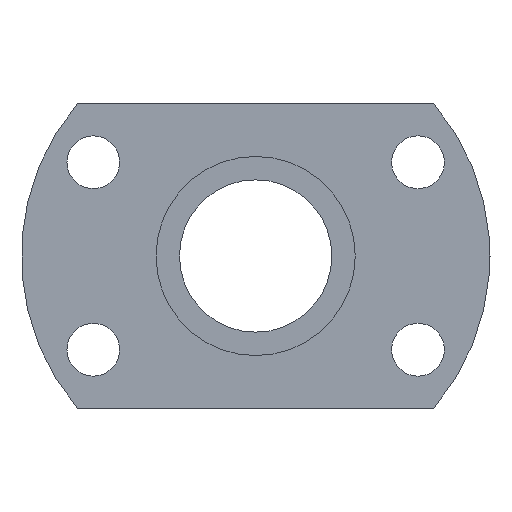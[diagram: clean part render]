
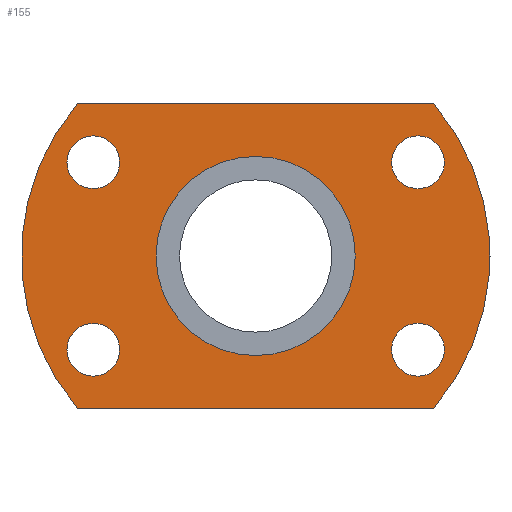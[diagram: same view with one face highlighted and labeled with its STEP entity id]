
A CAD part, left-side view. The second image highlights one B-rep face of the part: STEP entity #155.
In plain terms, the highlighted planar face has unit normal (-1, 0, 0).
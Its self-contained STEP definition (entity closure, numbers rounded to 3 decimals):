
#9 = CARTESIAN_POINT ( 'NONE',  ( 0.37, 13.856, 8. ) ) ;
#18 = AXIS2_PLACEMENT_3D ( 'NONE', #659, #80, #758 ) ;
#20 = CIRCLE ( 'NONE', #1184, 2.25 ) ;
#33 = CIRCLE ( 'NONE', #423, 2.25 ) ;
#37 = FACE_BOUND ( 'NONE', #420, .T. ) ;
#45 = CARTESIAN_POINT ( 'NONE',  ( 0.37, 20., 13. ) ) ;
#50 = ORIENTED_EDGE ( 'NONE', *, *, #231, .T. ) ;
#56 = DIRECTION ( 'NONE',  ( 0., 0., 1. ) ) ;
#58 = ORIENTED_EDGE ( 'NONE', *, *, #1233, .F. ) ;
#69 = DIRECTION ( 'NONE',  ( -1., 0., 0. ) ) ;
#70 = VERTEX_POINT ( 'NONE', #780 ) ;
#71 = ORIENTED_EDGE ( 'NONE', *, *, #379, .F. ) ;
#74 = EDGE_CURVE ( 'NONE', #219, #1029, #475, .T. ) ;
#79 = FACE_BOUND ( 'NONE', #1103, .T. ) ;
#80 = DIRECTION ( 'NONE',  ( -1., 0., 0. ) ) ;
#91 = ORIENTED_EDGE ( 'NONE', *, *, #718, .F. ) ;
#104 = VERTEX_POINT ( 'NONE', #825 ) ;
#107 = AXIS2_PLACEMENT_3D ( 'NONE', #9, #688, #111 ) ;
#108 = CARTESIAN_POINT ( 'NONE',  ( 0.37, 13.856, -8. ) ) ;
#111 = DIRECTION ( 'NONE',  ( 0., 0., 1. ) ) ;
#120 = CIRCLE ( 'NONE', #18, 2.25 ) ;
#135 = FACE_BOUND ( 'NONE', #313, .T. ) ;
#149 = CARTESIAN_POINT ( 'NONE',  ( 0.37, 13.856, -10.25 ) ) ;
#155 = ADVANCED_FACE ( 'NONE', ( #669, #135, #79, #37, #335, #511 ), #280, .F. ) ;
#158 = EDGE_CURVE ( 'NONE', #480, #104, #1221, .T. ) ;
#204 = CIRCLE ( 'NONE', #107, 2.25 ) ;
#211 = ORIENTED_EDGE ( 'NONE', *, *, #370, .F. ) ;
#217 = VERTEX_POINT ( 'NONE', #966 ) ;
#219 = VERTEX_POINT ( 'NONE', #1120 ) ;
#220 = CARTESIAN_POINT ( 'NONE',  ( 0.37, 0., 0. ) ) ;
#231 = EDGE_CURVE ( 'NONE', #949, #1135, #1187, .T. ) ;
#236 = VERTEX_POINT ( 'NONE', #265 ) ;
#248 = CARTESIAN_POINT ( 'NONE',  ( 0.37, -13.856, 10.25 ) ) ;
#265 = CARTESIAN_POINT ( 'NONE',  ( 0.37, -13.856, 5.75 ) ) ;
#280 = PLANE ( 'NONE',  #883 ) ;
#284 = DIRECTION ( 'NONE',  ( -1., 0., 0. ) ) ;
#290 = VERTEX_POINT ( 'NONE', #1024 ) ;
#313 = EDGE_LOOP ( 'NONE', ( #1105, #539 ) ) ;
#318 = DIRECTION ( 'NONE',  ( 0., 0., 1. ) ) ;
#325 = DIRECTION ( 'NONE',  ( 0., 0., 1. ) ) ;
#332 = AXIS2_PLACEMENT_3D ( 'NONE', #337, #1008, #432 ) ;
#335 = FACE_BOUND ( 'NONE', #634, .T. ) ;
#337 = CARTESIAN_POINT ( 'NONE',  ( 0.37, 0., 0. ) ) ;
#338 = EDGE_CURVE ( 'NONE', #712, #70, #723, .T. ) ;
#343 = ORIENTED_EDGE ( 'NONE', *, *, #1091, .F. ) ;
#370 = EDGE_CURVE ( 'NONE', #984, #290, #1110, .T. ) ;
#376 = DIRECTION ( 'NONE',  ( 0., 0., 1. ) ) ;
#378 = CARTESIAN_POINT ( 'NONE',  ( 0.37, 20., 0. ) ) ;
#379 = EDGE_CURVE ( 'NONE', #236, #413, #871, .T. ) ;
#405 = VECTOR ( 'NONE', #1046, 1000. ) ;
#406 = CARTESIAN_POINT ( 'NONE',  ( 0.37, 13.856, 8. ) ) ;
#413 = VERTEX_POINT ( 'NONE', #248 ) ;
#420 = EDGE_LOOP ( 'NONE', ( #343, #493 ) ) ;
#423 = AXIS2_PLACEMENT_3D ( 'NONE', #1210, #638, #56 ) ;
#426 = EDGE_LOOP ( 'NONE', ( #663, #58 ) ) ;
#432 = DIRECTION ( 'NONE',  ( 0., 0., 1. ) ) ;
#434 = AXIS2_PLACEMENT_3D ( 'NONE', #849, #69, #833 ) ;
#444 = LINE ( 'NONE', #45, #600 ) ;
#475 = CIRCLE ( 'NONE', #968, 2.25 ) ;
#480 = VERTEX_POINT ( 'NONE', #1030 ) ;
#493 = ORIENTED_EDGE ( 'NONE', *, *, #338, .F. ) ;
#506 = DIRECTION ( 'NONE',  ( 0., 0., 1. ) ) ;
#511 = FACE_OUTER_BOUND ( 'NONE', #577, .T. ) ;
#533 = CARTESIAN_POINT ( 'NONE',  ( 0.37, 0., -8.5 ) ) ;
#539 = ORIENTED_EDGE ( 'NONE', *, *, #1167, .F. ) ;
#558 = CARTESIAN_POINT ( 'NONE',  ( 0.37, 0., 0. ) ) ;
#572 = DIRECTION ( 'NONE',  ( 0., 0., -1. ) ) ;
#577 = EDGE_LOOP ( 'NONE', ( #1217, #703, #50, #882 ) ) ;
#600 = VECTOR ( 'NONE', #917, 1000. ) ;
#602 = CARTESIAN_POINT ( 'NONE',  ( 0.37, 15.199, -13. ) ) ;
#607 = VERTEX_POINT ( 'NONE', #786 ) ;
#634 = EDGE_LOOP ( 'NONE', ( #1013, #211 ) ) ;
#638 = DIRECTION ( 'NONE',  ( -1., 0., 0. ) ) ;
#652 = DIRECTION ( 'NONE',  ( 0., 0., 1. ) ) ;
#659 = CARTESIAN_POINT ( 'NONE',  ( 0.37, -13.856, -8. ) ) ;
#663 = ORIENTED_EDGE ( 'NONE', *, *, #74, .F. ) ;
#669 = FACE_BOUND ( 'NONE', #426, .T. ) ;
#688 = DIRECTION ( 'NONE',  ( -1., 0., 0. ) ) ;
#689 = LINE ( 'NONE', #860, #405 ) ;
#690 = AXIS2_PLACEMENT_3D ( 'NONE', #220, #902, #318 ) ;
#693 = EDGE_CURVE ( 'NONE', #217, #607, #710, .T. ) ;
#701 = AXIS2_PLACEMENT_3D ( 'NONE', #1082, #748, #729 ) ;
#703 = ORIENTED_EDGE ( 'NONE', *, *, #1034, .T. ) ;
#710 = CIRCLE ( 'NONE', #434, 20. ) ;
#712 = VERTEX_POINT ( 'NONE', #988 ) ;
#718 = EDGE_CURVE ( 'NONE', #413, #236, #33, .T. ) ;
#723 = CIRCLE ( 'NONE', #751, 2.25 ) ;
#729 = DIRECTION ( 'NONE',  ( 0., 0., 1. ) ) ;
#748 = DIRECTION ( 'NONE',  ( -1., 0., 0. ) ) ;
#751 = AXIS2_PLACEMENT_3D ( 'NONE', #406, #1075, #506 ) ;
#758 = DIRECTION ( 'NONE',  ( 0., 0., 1. ) ) ;
#780 = CARTESIAN_POINT ( 'NONE',  ( 0.37, 13.856, 10.25 ) ) ;
#785 = DIRECTION ( 'NONE',  ( -1., 0., 0. ) ) ;
#786 = CARTESIAN_POINT ( 'NONE',  ( 0.37, -15.199, 13. ) ) ;
#805 = CARTESIAN_POINT ( 'NONE',  ( 0.37, 13.856, -8. ) ) ;
#821 = CARTESIAN_POINT ( 'NONE',  ( 0.37, 15.199, 13. ) ) ;
#825 = CARTESIAN_POINT ( 'NONE',  ( 0.37, -13.856, -10.25 ) ) ;
#833 = DIRECTION ( 'NONE',  ( 0., 0., 1. ) ) ;
#849 = CARTESIAN_POINT ( 'NONE',  ( 0.37, 0., 0. ) ) ;
#853 = CIRCLE ( 'NONE', #332, 8.5 ) ;
#860 = CARTESIAN_POINT ( 'NONE',  ( 0.37, 20., -13. ) ) ;
#863 = AXIS2_PLACEMENT_3D ( 'NONE', #558, #1227, #652 ) ;
#865 = CARTESIAN_POINT ( 'NONE',  ( 0.37, -13.856, -8. ) ) ;
#871 = CIRCLE ( 'NONE', #701, 2.25 ) ;
#882 = ORIENTED_EDGE ( 'NONE', *, *, #1183, .T. ) ;
#883 = AXIS2_PLACEMENT_3D ( 'NONE', #378, #1136, #572 ) ;
#902 = DIRECTION ( 'NONE',  ( -1., 0., 0. ) ) ;
#905 = EDGE_CURVE ( 'NONE', #290, #984, #853, .T. ) ;
#916 = AXIS2_PLACEMENT_3D ( 'NONE', #865, #284, #961 ) ;
#917 = DIRECTION ( 'NONE',  ( 0., 1., 0. ) ) ;
#949 = VERTEX_POINT ( 'NONE', #821 ) ;
#951 = DIRECTION ( 'NONE',  ( -1., 0., 0. ) ) ;
#961 = DIRECTION ( 'NONE',  ( 0., 0., 1. ) ) ;
#966 = CARTESIAN_POINT ( 'NONE',  ( 0.37, -15.199, -13. ) ) ;
#968 = AXIS2_PLACEMENT_3D ( 'NONE', #805, #951, #376 ) ;
#984 = VERTEX_POINT ( 'NONE', #533 ) ;
#988 = CARTESIAN_POINT ( 'NONE',  ( 0.37, 13.856, 5.75 ) ) ;
#1008 = DIRECTION ( 'NONE',  ( -1., 0., 0. ) ) ;
#1013 = ORIENTED_EDGE ( 'NONE', *, *, #905, .F. ) ;
#1024 = CARTESIAN_POINT ( 'NONE',  ( 0.37, 0., 8.5 ) ) ;
#1029 = VERTEX_POINT ( 'NONE', #149 ) ;
#1030 = CARTESIAN_POINT ( 'NONE',  ( 0.37, -13.856, -5.75 ) ) ;
#1034 = EDGE_CURVE ( 'NONE', #607, #949, #444, .T. ) ;
#1046 = DIRECTION ( 'NONE',  ( 0., -1., 0. ) ) ;
#1075 = DIRECTION ( 'NONE',  ( -1., 0., 0. ) ) ;
#1082 = CARTESIAN_POINT ( 'NONE',  ( 0.37, -13.856, 8. ) ) ;
#1091 = EDGE_CURVE ( 'NONE', #70, #712, #204, .T. ) ;
#1103 = EDGE_LOOP ( 'NONE', ( #91, #71 ) ) ;
#1105 = ORIENTED_EDGE ( 'NONE', *, *, #158, .F. ) ;
#1110 = CIRCLE ( 'NONE', #690, 8.5 ) ;
#1120 = CARTESIAN_POINT ( 'NONE',  ( 0.37, 13.856, -5.75 ) ) ;
#1135 = VERTEX_POINT ( 'NONE', #602 ) ;
#1136 = DIRECTION ( 'NONE',  ( 1., 0., 0. ) ) ;
#1167 = EDGE_CURVE ( 'NONE', #104, #480, #120, .T. ) ;
#1183 = EDGE_CURVE ( 'NONE', #1135, #217, #689, .T. ) ;
#1184 = AXIS2_PLACEMENT_3D ( 'NONE', #108, #785, #325 ) ;
#1187 = CIRCLE ( 'NONE', #863, 20. ) ;
#1210 = CARTESIAN_POINT ( 'NONE',  ( 0.37, -13.856, 8. ) ) ;
#1217 = ORIENTED_EDGE ( 'NONE', *, *, #693, .T. ) ;
#1221 = CIRCLE ( 'NONE', #916, 2.25 ) ;
#1227 = DIRECTION ( 'NONE',  ( -1., 0., 0. ) ) ;
#1233 = EDGE_CURVE ( 'NONE', #1029, #219, #20, .T. ) ;
